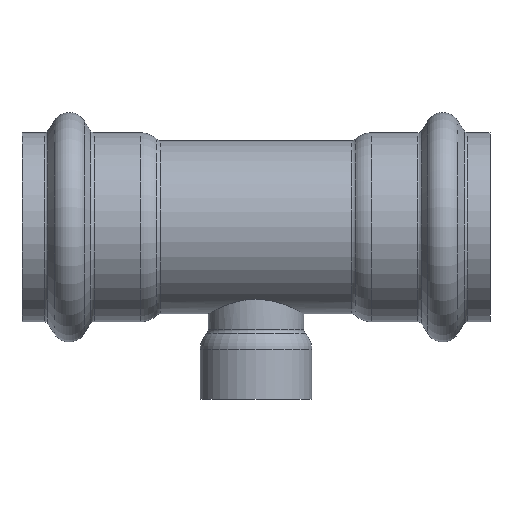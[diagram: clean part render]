
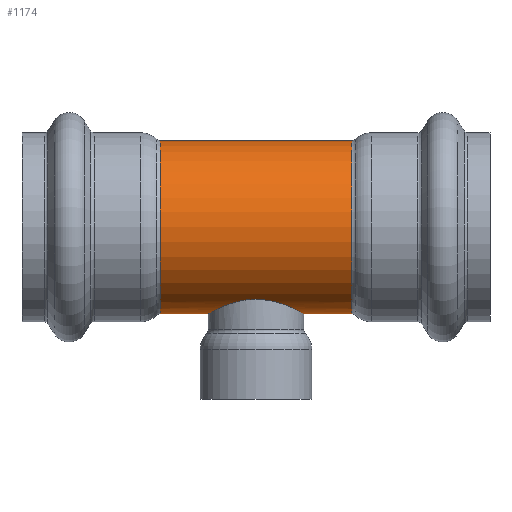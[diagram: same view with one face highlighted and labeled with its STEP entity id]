
A CAD part, top view. The second image highlights one B-rep face of the part: STEP entity #1174.
In plain terms, the highlighted cylindrical face has radius 30.163 mm (diameter 60.325 mm), a full revolution.
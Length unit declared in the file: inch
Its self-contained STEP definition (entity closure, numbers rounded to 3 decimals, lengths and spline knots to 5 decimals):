
#112=FACE_OUTER_BOUND('',#163,.T.);
#163=EDGE_LOOP('',(#924,#925,#926,#927,#928,#929,#930,#931,#932,#933,#934,
#935,#936,#937));
#270=CIRCLE('',#1329,1.1875);
#271=CIRCLE('',#1330,1.1875);
#272=CIRCLE('',#1331,1.1875);
#273=CIRCLE('',#1333,1.1875);
#274=CIRCLE('',#1334,1.1875);
#275=CIRCLE('',#1335,1.1875);
#350=LINE('',#2224,#374);
#351=LINE('',#2225,#375);
#374=VECTOR('',#1686,1.1875);
#375=VECTOR('',#1687,1.1875);
#384=B_SPLINE_CURVE_WITH_KNOTS('',3,(#1886,#1887,#1888,#1889,#1890,#1891,
#1892,#1893,#1894,#1895,#1896,#1897,#1898,#1899,#1900,#1901),
 .UNSPECIFIED.,.F.,.F.,(4,2,2,2,2,2,2,4),(0.,0.32343,0.64685,
1.29371,1.61572,1.93773,2.25974,2.58175),
 .UNSPECIFIED.);
#385=B_SPLINE_CURVE_WITH_KNOTS('',3,(#1903,#1904,#1905,#1906,#1907,#1908,
#1909,#1910,#1911,#1912,#1913,#1914,#1915,#1916,#1917,#1918),
 .UNSPECIFIED.,.F.,.F.,(4,2,2,2,2,2,2,4),(7.74526,8.06727,
8.38928,8.71129,9.0333,9.68016,10.00358,
10.32701),.UNSPECIFIED.);
#386=B_SPLINE_CURVE_WITH_KNOTS('',3,(#1920,#1921,#1922,#1923,#1924,#1925,
#1926,#1927,#1928,#1929,#1930,#1931,#1932,#1933,#1934,#1935),
 .UNSPECIFIED.,.F.,.F.,(4,2,2,2,2,2,2,4),(5.16351,5.48693,
5.81036,6.45721,6.77923,7.10124,7.42325,
7.74526),.UNSPECIFIED.);
#387=B_SPLINE_CURVE_WITH_KNOTS('',3,(#1941,#1942,#1943,#1944,#1945,#1946,
#1947,#1948,#1949,#1950,#1951,#1952,#1953,#1954,#1955,#1956),
 .UNSPECIFIED.,.F.,.F.,(4,2,2,2,2,2,2,4),(2.58175,2.90376,
3.22577,3.54778,3.8698,4.51665,4.84008,
5.16351),.UNSPECIFIED.);
#392=VERTEX_POINT('',#1884);
#393=VERTEX_POINT('',#1885);
#394=VERTEX_POINT('',#1902);
#395=VERTEX_POINT('',#1919);
#472=VERTEX_POINT('',#2211);
#473=VERTEX_POINT('',#2213);
#474=VERTEX_POINT('',#2215);
#475=VERTEX_POINT('',#2219);
#476=VERTEX_POINT('',#2220);
#477=VERTEX_POINT('',#2222);
#528=EDGE_CURVE('',#392,#393,#384,.T.);
#529=EDGE_CURVE('',#394,#392,#385,.T.);
#530=EDGE_CURVE('',#395,#394,#386,.T.);
#534=EDGE_CURVE('',#393,#395,#387,.T.);
#636=EDGE_CURVE('',#473,#472,#270,.T.);
#637=EDGE_CURVE('',#474,#473,#271,.T.);
#638=EDGE_CURVE('',#472,#474,#272,.T.);
#639=EDGE_CURVE('',#475,#476,#273,.T.);
#640=EDGE_CURVE('',#477,#475,#274,.T.);
#641=EDGE_CURVE('',#477,#393,#350,.T.);
#642=EDGE_CURVE('',#394,#474,#351,.T.);
#643=EDGE_CURVE('',#476,#477,#275,.T.);
#924=ORIENTED_EDGE('',*,*,#639,.F.);
#925=ORIENTED_EDGE('',*,*,#640,.F.);
#926=ORIENTED_EDGE('',*,*,#641,.T.);
#927=ORIENTED_EDGE('',*,*,#534,.T.);
#928=ORIENTED_EDGE('',*,*,#530,.T.);
#929=ORIENTED_EDGE('',*,*,#642,.T.);
#930=ORIENTED_EDGE('',*,*,#637,.T.);
#931=ORIENTED_EDGE('',*,*,#636,.T.);
#932=ORIENTED_EDGE('',*,*,#638,.T.);
#933=ORIENTED_EDGE('',*,*,#642,.F.);
#934=ORIENTED_EDGE('',*,*,#529,.T.);
#935=ORIENTED_EDGE('',*,*,#528,.T.);
#936=ORIENTED_EDGE('',*,*,#641,.F.);
#937=ORIENTED_EDGE('',*,*,#643,.F.);
#1089=CYLINDRICAL_SURFACE('',#1332,1.1875);
#1174=ADVANCED_FACE('',(#112),#1089,.T.);
#1329=AXIS2_PLACEMENT_3D('',#2214,#1674,#1675);
#1330=AXIS2_PLACEMENT_3D('',#2216,#1676,#1677);
#1331=AXIS2_PLACEMENT_3D('',#2217,#1678,#1679);
#1332=AXIS2_PLACEMENT_3D('',#2218,#1680,#1681);
#1333=AXIS2_PLACEMENT_3D('',#2221,#1682,#1683);
#1334=AXIS2_PLACEMENT_3D('',#2223,#1684,#1685);
#1335=AXIS2_PLACEMENT_3D('',#2226,#1688,#1689);
#1674=DIRECTION('center_axis',(1.,0.,0.));
#1675=DIRECTION('ref_axis',(0.,1.,0.));
#1676=DIRECTION('center_axis',(1.,0.,0.));
#1677=DIRECTION('ref_axis',(0.,1.,0.));
#1678=DIRECTION('center_axis',(1.,0.,0.));
#1679=DIRECTION('ref_axis',(0.,1.,0.));
#1680=DIRECTION('center_axis',(1.,0.,0.));
#1681=DIRECTION('ref_axis',(0.,1.,0.));
#1682=DIRECTION('center_axis',(1.,0.,0.));
#1683=DIRECTION('ref_axis',(0.,1.,0.));
#1684=DIRECTION('center_axis',(1.,0.,0.));
#1685=DIRECTION('ref_axis',(0.,1.,0.));
#1686=DIRECTION('',(-1.,0.,0.));
#1687=DIRECTION('',(-1.,0.,0.));
#1688=DIRECTION('center_axis',(1.,0.,0.));
#1689=DIRECTION('ref_axis',(0.,1.,0.));
#1884=CARTESIAN_POINT('',(0.,-0.98886,0.6575));
#1885=CARTESIAN_POINT('',(0.6575,-1.1875,0.));
#1886=CARTESIAN_POINT('Ctrl Pts',(0.,-0.98886,
0.6575));
#1887=CARTESIAN_POINT('Ctrl Pts',(0.04244,-0.98886,
0.6575));
#1888=CARTESIAN_POINT('Ctrl Pts',(0.08592,-0.99168,
0.65333));
#1889=CARTESIAN_POINT('Ctrl Pts',(0.17166,-1.00275,0.6362));
#1890=CARTESIAN_POINT('Ctrl Pts',(0.21393,-1.01099,0.62326));
#1891=CARTESIAN_POINT('Ctrl Pts',(0.3348,-1.04108,0.57258));
#1892=CARTESIAN_POINT('Ctrl Pts',(0.40744,-1.06825,0.5224));
#1893=CARTESIAN_POINT('Ctrl Pts',(0.49354,-1.10488,0.43631));
#1894=CARTESIAN_POINT('Ctrl Pts',(0.52056,-1.11731,0.40392));
#1895=CARTESIAN_POINT('Ctrl Pts',(0.56851,-1.14044,0.33307));
#1896=CARTESIAN_POINT('Ctrl Pts',(0.58944,-1.15112,0.2946));
#1897=CARTESIAN_POINT('Ctrl Pts',(0.6233,-1.16882,0.21383));
#1898=CARTESIAN_POINT('Ctrl Pts',(0.63626,-1.17585,0.17146));
#1899=CARTESIAN_POINT('Ctrl Pts',(0.65336,-1.18519,0.08567));
#1900=CARTESIAN_POINT('Ctrl Pts',(0.6575,-1.1875,0.04226));
#1901=CARTESIAN_POINT('Ctrl Pts',(0.6575,-1.1875,0.));
#1902=CARTESIAN_POINT('',(-0.6575,-1.1875,0.));
#1903=CARTESIAN_POINT('Ctrl Pts',(-0.6575,-1.1875,0.));
#1904=CARTESIAN_POINT('Ctrl Pts',(-0.6575,-1.1875,0.04226));
#1905=CARTESIAN_POINT('Ctrl Pts',(-0.65336,-1.18519,
0.08567));
#1906=CARTESIAN_POINT('Ctrl Pts',(-0.63626,-1.17585,
0.17146));
#1907=CARTESIAN_POINT('Ctrl Pts',(-0.6233,-1.16882,
0.21383));
#1908=CARTESIAN_POINT('Ctrl Pts',(-0.58944,-1.15112,0.2946));
#1909=CARTESIAN_POINT('Ctrl Pts',(-0.56851,-1.14044,
0.33307));
#1910=CARTESIAN_POINT('Ctrl Pts',(-0.52056,-1.11731,
0.40392));
#1911=CARTESIAN_POINT('Ctrl Pts',(-0.49354,-1.10488,
0.43631));
#1912=CARTESIAN_POINT('Ctrl Pts',(-0.40744,-1.06825,
0.5224));
#1913=CARTESIAN_POINT('Ctrl Pts',(-0.3348,-1.04108,
0.57258));
#1914=CARTESIAN_POINT('Ctrl Pts',(-0.21393,-1.01099,
0.62326));
#1915=CARTESIAN_POINT('Ctrl Pts',(-0.17166,-1.00275,
0.6362));
#1916=CARTESIAN_POINT('Ctrl Pts',(-0.08592,-0.99168,
0.65333));
#1917=CARTESIAN_POINT('Ctrl Pts',(-0.04244,-0.98886,
0.6575));
#1918=CARTESIAN_POINT('Ctrl Pts',(0.,-0.98886,
0.6575));
#1919=CARTESIAN_POINT('',(0.,-0.98886,-0.6575));
#1920=CARTESIAN_POINT('Ctrl Pts',(0.,-0.98886,
-0.6575));
#1921=CARTESIAN_POINT('Ctrl Pts',(-0.04244,-0.98886,
-0.6575));
#1922=CARTESIAN_POINT('Ctrl Pts',(-0.08592,-0.99168,
-0.65333));
#1923=CARTESIAN_POINT('Ctrl Pts',(-0.17166,-1.00275,
-0.6362));
#1924=CARTESIAN_POINT('Ctrl Pts',(-0.21393,-1.01099,
-0.62326));
#1925=CARTESIAN_POINT('Ctrl Pts',(-0.3348,-1.04108,
-0.57258));
#1926=CARTESIAN_POINT('Ctrl Pts',(-0.40744,-1.06825,
-0.5224));
#1927=CARTESIAN_POINT('Ctrl Pts',(-0.49354,-1.10488,
-0.43631));
#1928=CARTESIAN_POINT('Ctrl Pts',(-0.52056,-1.11731,
-0.40392));
#1929=CARTESIAN_POINT('Ctrl Pts',(-0.56851,-1.14044,
-0.33307));
#1930=CARTESIAN_POINT('Ctrl Pts',(-0.58944,-1.15112,-0.2946));
#1931=CARTESIAN_POINT('Ctrl Pts',(-0.6233,-1.16882,
-0.21383));
#1932=CARTESIAN_POINT('Ctrl Pts',(-0.63626,-1.17585,
-0.17146));
#1933=CARTESIAN_POINT('Ctrl Pts',(-0.65336,-1.18519,
-0.08567));
#1934=CARTESIAN_POINT('Ctrl Pts',(-0.6575,-1.1875,-0.04226));
#1935=CARTESIAN_POINT('Ctrl Pts',(-0.6575,-1.1875,0.));
#1941=CARTESIAN_POINT('Ctrl Pts',(0.6575,-1.1875,0.));
#1942=CARTESIAN_POINT('Ctrl Pts',(0.6575,-1.1875,-0.04226));
#1943=CARTESIAN_POINT('Ctrl Pts',(0.65336,-1.18519,-0.08567));
#1944=CARTESIAN_POINT('Ctrl Pts',(0.63626,-1.17585,-0.17146));
#1945=CARTESIAN_POINT('Ctrl Pts',(0.6233,-1.16882,-0.21383));
#1946=CARTESIAN_POINT('Ctrl Pts',(0.58944,-1.15112,-0.2946));
#1947=CARTESIAN_POINT('Ctrl Pts',(0.56851,-1.14044,-0.33307));
#1948=CARTESIAN_POINT('Ctrl Pts',(0.52056,-1.11731,-0.40392));
#1949=CARTESIAN_POINT('Ctrl Pts',(0.49354,-1.10488,-0.43631));
#1950=CARTESIAN_POINT('Ctrl Pts',(0.40744,-1.06825,-0.5224));
#1951=CARTESIAN_POINT('Ctrl Pts',(0.3348,-1.04108,-0.57258));
#1952=CARTESIAN_POINT('Ctrl Pts',(0.21393,-1.01099,-0.62326));
#1953=CARTESIAN_POINT('Ctrl Pts',(0.17166,-1.00275,-0.6362));
#1954=CARTESIAN_POINT('Ctrl Pts',(0.08592,-0.99168,
-0.65333));
#1955=CARTESIAN_POINT('Ctrl Pts',(0.04244,-0.98886,
-0.6575));
#1956=CARTESIAN_POINT('Ctrl Pts',(0.,-0.98886,
-0.6575));
#2211=CARTESIAN_POINT('',(-1.31135,0.,1.1875));
#2213=CARTESIAN_POINT('',(-1.31135,1.1875,0.));
#2214=CARTESIAN_POINT('Origin',(-1.31135,0.,0.));
#2215=CARTESIAN_POINT('',(-1.31135,-1.1875,0.));
#2216=CARTESIAN_POINT('Origin',(-1.31135,0.,0.));
#2217=CARTESIAN_POINT('Origin',(-1.31135,0.,0.));
#2218=CARTESIAN_POINT('Origin',(0.65568,0.,0.));
#2219=CARTESIAN_POINT('',(1.31135,1.1875,0.));
#2220=CARTESIAN_POINT('',(1.31135,0.,1.1875));
#2221=CARTESIAN_POINT('Origin',(1.31135,0.,0.));
#2222=CARTESIAN_POINT('',(1.31135,-1.1875,0.));
#2223=CARTESIAN_POINT('Origin',(1.31135,0.,0.));
#2224=CARTESIAN_POINT('',(0.65568,-1.1875,0.));
#2225=CARTESIAN_POINT('',(0.65568,-1.1875,0.));
#2226=CARTESIAN_POINT('Origin',(1.31135,0.,0.));
